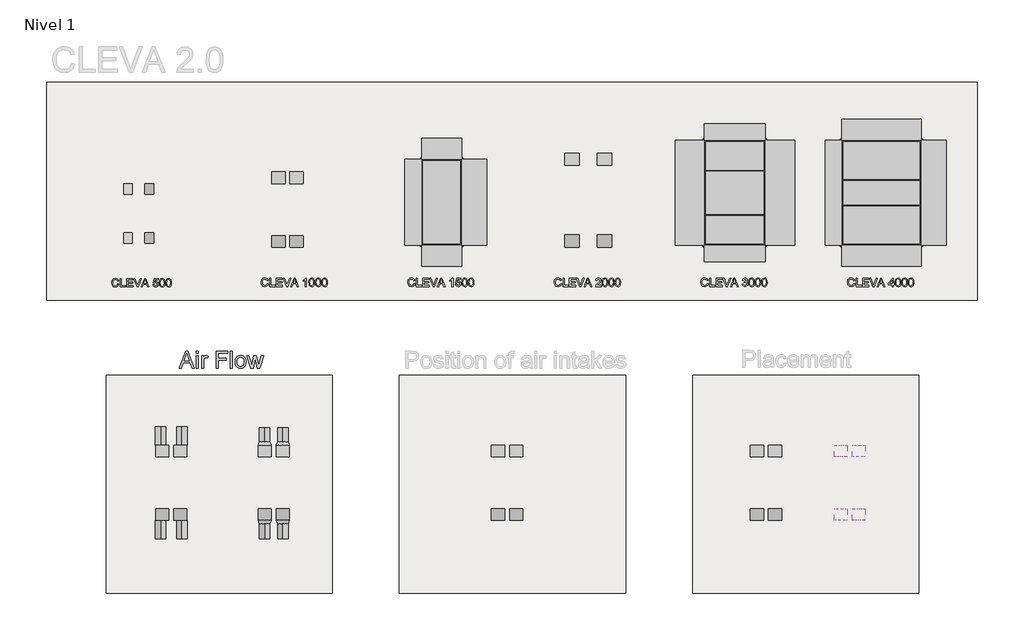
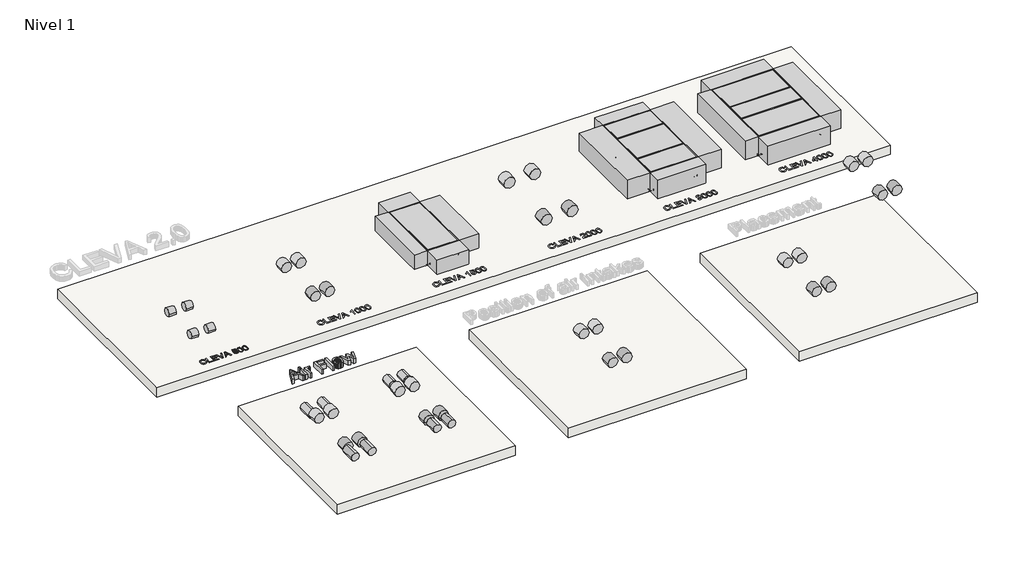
# One storey, part 1 of 4: 49 proxies, 8 duct segments, 4 duct fittings, 4 slabs.
"""IFC4 building model written with IfcOpenShell, lengths in millimetres."""

from ifc_helpers import new_model, si_unit, point, frame, frame_2d, origin, origin_with_axes, place, context, project, spatial, polyline, circle_curve, trimmed, segment, composite_curve, outline, extrude, transform, mapped, element, save
from components import mechanical_equipment_862caaf2, mechanical_equipment_ccacce41, mechanical_equipment_cc5bcc0d, mechanical_equipment_c04ba774, mechanical_equipment_7009f9f1, mechanical_equipment_b7612c93, mechanical_equipment_8fb162d6, mechanical_equipment_6676021b, generic_38d393d2, generic_a02d87c0, generic_b7d0f0c7, generic_0010b177, generic_a8033e50, generic_71049ee5, generic_86a936d3, generic_914f4e6b, generic_8c205b38, generic_0c9c9dc3, generic_617cf1fd, generic_b990c55b, duct_fitting_45_grados_958f1904

model = new_model("IFC4")

# Units and contexts
model_context = context("Model", 3, world=origin())
ifc_project = project(units=[si_unit("LENGTHUNIT", "METRE", prefix="MILLI")], contexts=[model_context])

# Site, building, storey
site = spatial("IfcSite", under=ifc_project)
building = spatial("IfcBuilding", under=site)
storey = spatial("IfcBuildingStorey", under=building, Name="Nivel 1", Elevation=0.0)

# Proxies
placement = place(None, origin())
mechanical_equipment_shape = mechanical_equipment_862caaf2(model_context)
mechanical_equipment_2_shape = mechanical_equipment_ccacce41(model_context)
mechanical_equipment_3_shape = mechanical_equipment_cc5bcc0d(model_context)
element("IfcBuildingElementProxy", 1, Name="EMC_VEN_CLEVA 2.0_Right_V2 : CLEVA 3000 2.0 Right", ObjectType="EMC_VEN_CLEVA 2.0_Right_V2 : CLEVA 3000 2.0 Right", at=placement, inside=storey, context=model_context, shape_type="MappedRepresentation", body=[
    mapped(mechanical_equipment_shape, transform((5015.2317784, 8856.8192571, 0.0), x_axis=(0.0, 1.0, 0.0), y_axis=(-1.0, 0.0, 0.0), z_axis=(0.0, 0.0, 1.0))),
    mapped(mechanical_equipment_2_shape, transform((5015.2317784, 8856.8192571, 0.0), x_axis=(0.0, 1.0, 0.0), y_axis=(-1.0, 0.0, 0.0), z_axis=(0.0, 0.0, 1.0))),
    mapped(mechanical_equipment_3_shape, transform((5015.2317784, 8856.8192571, 0.0), x_axis=(0.0, 1.0, 0.0), y_axis=(-1.0, 0.0, 0.0), z_axis=(0.0, 0.0, 1.0))),
])
mechanical_equipment_4_shape = mechanical_equipment_c04ba774(model_context)
mechanical_equipment_5_shape = mechanical_equipment_7009f9f1(model_context)
mechanical_equipment_6_shape = mechanical_equipment_b7612c93(model_context)
element("IfcBuildingElementProxy", 2, Name="EMC_VEN_CLEVA 2.0_Right_V2 : CLEVA 4000 2.0 Right", ObjectType="EMC_VEN_CLEVA 2.0_Right_V2 : CLEVA 4000 2.0 Right", at=placement, inside=storey, context=model_context, shape_type="MappedRepresentation", body=[
    mapped(mechanical_equipment_4_shape, transform((8515.2317784, 8856.8192571, 0.0), x_axis=(0.0, 1.0, 0.0), y_axis=(-1.0, 0.0, 0.0), z_axis=(0.0, 0.0, 1.0))),
    mapped(mechanical_equipment_5_shape, transform((8515.2317784, 8856.8192571, 0.0), x_axis=(0.0, 1.0, 0.0), y_axis=(-1.0, 0.0, 0.0), z_axis=(0.0, 0.0, 1.0))),
    mapped(mechanical_equipment_6_shape, transform((8515.2317784, 8856.8192571, 0.0), x_axis=(0.0, 1.0, 0.0), y_axis=(-1.0, 0.0, 0.0), z_axis=(0.0, 0.0, 1.0))),
])
mechanical_equipment_7_shape = mechanical_equipment_8fb162d6(model_context)
mechanical_equipment_8_shape = mechanical_equipment_6676021b(model_context)
element("IfcBuildingElementProxy", 3, Name="EMC_VEN_CLEVA 2.0_Right_V2 : CLEVA 1500 2.0 Right", ObjectType="EMC_VEN_CLEVA 2.0_Right_V2 : CLEVA 1500 2.0 Right", at=placement, inside=storey, context=model_context, shape_type="MappedRepresentation", body=[
    mapped(mechanical_equipment_7_shape, transform((-1984.7682216, 8631.8192571, 0.0), x_axis=(0.0, 1.0, 0.0), y_axis=(-1.0, 0.0, 0.0), z_axis=(0.0, 0.0, 1.0))),
    mapped(mechanical_equipment_8_shape, transform((-1984.7682216, 8631.8192571, 0.0), x_axis=(0.0, 1.0, 0.0), y_axis=(-1.0, 0.0, 0.0), z_axis=(0.0, 0.0, 1.0))),
])
element("IfcBuildingElementProxy", 4, Name="200mm Arial", ObjectType="200mm Arial", at=placement, inside=storey, context=model_context, shape_type="SweptSolid", body=[
    extrude(outline(polyline([(-9714.4634923, 6680.5116945), (-9689.3494147, 6674.0369713), (-9700.9376976, 6644.7719586), (-9719.1233309, 6623.3918833), (-9743.0111351, 6610.3136784), (-9771.7059307, 6605.9542768), (-9800.8360534, 6609.252952), (-9823.9696995, 6619.1489777), (-9841.7016117, 6635.2989972), (-9854.6265324, 6657.3596542), (-9862.5176012, 6683.2953349), (-9865.1479575, 6711.0704255), (-9862.1742447, 6740.3660951), (-9853.2531063, 6765.6641136), (-9838.8505262, 6786.1612721), (-9819.4324882, 6801.0543615), (-9796.4030753, 6810.1226527), (-9771.1663705, 6813.1454164), (-9743.6304031, 6809.2336046), (-9720.864639, 6797.4981689), (-9703.5803166, 6778.6626108), (-9692.4886744, 6753.4504314), (-9717.602752, 6747.4662176), (-9726.3092925, 6765.7806096), (-9738.2041437, 6778.3437797), (-9753.4344583, 6785.6094491), (-9772.1473891, 6788.0313389), (-9793.7175368, 6785.3458003), (-9811.4371862, 6777.2891846), (-9824.8832731, 6764.7076204), (-9833.6327333, 6748.4472362), (-9838.4335933, 6730.0653992), (-9840.03388, 6711.1194765), (-9838.1392877, 6687.9183853), (-9832.4555109, 6667.8565538), (-9822.7679517, 6651.7004029), (-9808.8620122, 6640.2163532), (-9792.1908265, 6633.355354), (-9774.2075283, 6631.0683543), (-9753.2443859, 6634.1830885), (-9735.7761225, 6643.5272912), (-9722.587553, 6659.0028605), (-9714.4634923, 6680.5116945)])), origin_with_axes(), (0.0, 0.0, 1.0), 10.0),
    extrude(outline(polyline([(-9654.8175581, 6609.0935365), (-9654.8175581, 6810.0061568), (-9629.7034806, 6810.0061568), (-9629.7034806, 6634.207614), (-9529.2471704, 6634.207614), (-9529.2471704, 6609.0935365), (-9654.8175581, 6609.0935365)])), origin_with_axes(), (0.0, 0.0, 1.0), 10.0),
    extrude(outline(polyline([(-9500.9938332, 6609.0935365), (-9500.9938332, 6810.0061568), (-9356.5878874, 6810.0061568), (-9356.5878874, 6784.8920792), (-9475.8797557, 6784.8920792), (-9475.8797557, 6725.2461451), (-9362.8664068, 6725.2461451), (-9362.8664068, 6700.1320675), (-9475.8797557, 6700.1320675), (-9475.8797557, 6634.207614), (-9353.4486277, 6634.207614), (-9353.4486277, 6609.0935365), (-9500.9938332, 6609.0935365)])), origin_with_axes(), (0.0, 0.0, 1.0), 10.0),
    extrude(outline(polyline([(-9153.9584844, 6609.0935365), (-9073.7602095, 6810.0061568), (-9052.3740028, 6810.0061568), (-8972.1757279, 6609.0935365), (-8998.7122825, 6609.0935365), (-9021.7171699, 6671.8787303), (-9104.4660933, 6671.8787303), (-9127.4219298, 6609.0935365), (-9153.9584844, 6609.0935365)]), holes=[polyline([(-9095.244518, 6696.9928078), (-9030.8896943, 6696.9928078), (-9048.9894885, 6746.3870971), (-9063.0671062, 6784.8920792), (-9075.575094, 6750.7035791), (-9095.244518, 6696.9928078)])]), origin_with_axes(), (0.0, 0.0, 1.0), 10.0),
    extrude(outline(polyline([(-9256.4258828, 6609.0935365), (-9336.3789031, 6810.0061568), (-9309.498992, 6810.0061568), (-9255.9844244, 6665.2568544), (-9245.1441683, 6632.6379841), (-9234.451065, 6665.2568544), (-9180.7893446, 6810.0061568), (-9153.9094335, 6810.0061568), (-9230.4779394, 6609.0935365), (-9256.4258828, 6609.0935365)])), origin_with_axes(), (0.0, 0.0, 1.0), 10.0),
    extrude(outline(polyline([(-8876.2811545, 6662.4609512), (-8851.1670769, 6665.6002109), (-8846.5562893, 6650.5231805), (-8838.5119363, 6639.7258439), (-8827.0708062, 6633.2327267), (-8812.2696873, 6631.0683543), (-8794.267995, 6634.0788553), (-8780.7789885, 6643.1103583), (-8772.3544908, 6657.1205309), (-8769.5463249, 6675.0670409), (-8772.1766812, 6691.9650872), (-8780.06775, 6704.890008), (-8793.280845, 6713.0937765), (-8811.8772798, 6715.828366), (-8833.9256741, 6711.462833), (-8848.0278172, 6700.1320675), (-8873.1418948, 6703.2713272), (-8851.1670769, 6806.8668971), (-8753.8500265, 6806.8668971), (-8753.8500265, 6781.7528195), (-8830.8599908, 6781.7528195), (-8841.6021451, 6726.4233674), (-8823.6617664, 6737.3126745), (-8804.8629965, 6740.9424435), (-8781.3982565, 6736.4420205), (-8761.9189049, 6722.9407512), (-8748.8039118, 6702.363885), (-8744.4322474, 6676.6366708), (-8748.3685847, 6651.5225932), (-8760.1775968, 6630.0382847), (-8770.6131827, 6619.5015312), (-8782.7900768, 6611.9752787), (-8796.7082789, 6607.4595273), (-8812.3677892, 6605.9542768), (-8837.034277, 6609.8231691), (-8856.6853069, 6621.429846), (-8870.1559193, 6639.425407), (-8876.2811545, 6662.4609512)])), origin_with_axes(), (0.0, 0.0, 1.0), 10.0),
    extrude(outline(polyline([(-8722.4574296, 6707.9311658), (-8720.6118882, 6740.0901836), (-8715.0752642, 6765.73769), (-8705.9027398, 6785.2660926), (-8693.1494973, 6799.0677988), (-8676.7235662, 6807.2715673), (-8656.532976, 6810.0061568), (-8641.0574068, 6808.387476), (-8627.2005183, 6803.5314336), (-8615.6122354, 6795.6281021), (-8606.9424831, 6784.8675537), (-8595.1702592, 6755.1426885), (-8590.6085225, 6707.9311658), (-8592.4356697, 6675.9560891), (-8597.9171115, 6650.3698963), (-8607.0344536, 6630.8230996), (-8619.769302, 6616.9662112), (-8636.2320213, 6608.7072604), (-8656.532976, 6605.9542768), (-8682.6280722, 6610.7367427), (-8702.444649, 6625.0841405), (-8711.2002405, 6640.2132876), (-8717.4542344, 6659.0641741), (-8722.4574296, 6707.9311658)]), holes=[polyline([(-8697.343352, 6707.9802168), (-8694.4002961, 6668.4758218), (-8685.5711282, 6645.6119558), (-8672.4254782, 6634.7042547), (-8656.532976, 6631.0683543), (-8640.6404738, 6634.7165174), (-8627.4948239, 6645.6610068), (-8618.665656, 6668.5371355), (-8615.7226, 6707.9802168), (-8618.5675541, 6746.5955635), (-8627.1024164, 6769.6372391), (-8640.2235409, 6781.0783692), (-8656.8272816, 6784.8920792), (-8672.5481055, 6781.5320903), (-8685.1787207, 6771.4521237), (-8694.3021942, 6746.9757082), (-8697.343352, 6707.9802168)])]), origin_with_axes(), (0.0, 0.0, 1.0), 10.0),
    extrude(outline(polyline([(-8568.6337046, 6707.9311658), (-8566.7881633, 6740.0901836), (-8561.2515393, 6765.73769), (-8552.0790149, 6785.2660926), (-8539.3257724, 6799.0677988), (-8522.8998413, 6807.2715673), (-8502.7092511, 6810.0061568), (-8487.2336818, 6808.387476), (-8473.3767934, 6803.5314336), (-8461.7885105, 6795.6281021), (-8453.1187582, 6784.8675537), (-8441.3465343, 6755.1426885), (-8436.7847976, 6707.9311658), (-8438.6119448, 6675.9560891), (-8444.0933865, 6650.3698963), (-8453.2107287, 6630.8230996), (-8465.9455771, 6616.9662112), (-8482.4082963, 6608.7072604), (-8502.7092511, 6605.9542768), (-8528.8043473, 6610.7367427), (-8548.6209241, 6625.0841405), (-8557.3765156, 6640.2132876), (-8563.6305095, 6659.0641741), (-8568.6337046, 6707.9311658)]), holes=[polyline([(-8543.5196271, 6707.9802168), (-8540.5765711, 6668.4758218), (-8531.7474033, 6645.6119558), (-8518.6017533, 6634.7042547), (-8502.7092511, 6631.0683543), (-8486.8167489, 6634.7165174), (-8473.6710989, 6645.6610068), (-8464.8419311, 6668.5371355), (-8461.8988751, 6707.9802168), (-8464.7438292, 6746.5955635), (-8473.2786915, 6769.6372391), (-8486.399816, 6781.0783692), (-8503.0035567, 6784.8920792), (-8518.7243806, 6781.5320903), (-8531.3549958, 6771.4521237), (-8540.4784693, 6746.9757082), (-8543.5196271, 6707.9802168)])]), origin_with_axes(), (0.0, 0.0, 1.0), 10.0),
])
element("IfcBuildingElementProxy", 5, Name="400mm Arial", ObjectType="400mm Arial", at=placement, inside=storey, context=model_context, shape_type="SweptSolid", body=[
    extrude(outline(polyline([(-8251.4303088, 4671.5258192), (-8091.0337589, 5073.3510598), (-8048.2613456, 5073.3510598), (-7887.8647957, 4671.5258192), (-7940.9379049, 4671.5258192), (-7986.9476798, 4797.0962069), (-8152.4455267, 4797.0962069), (-8198.3571997, 4671.5258192), (-8251.4303088, 4671.5258192)]), holes=[polyline([(-8134.002376, 4847.324362), (-8005.2927286, 4847.324362), (-8041.4923169, 4946.1129404), (-8069.6475523, 5023.1229048), (-8094.663528, 4954.7459046), (-8134.002376, 4847.324362)])]), origin_with_axes(), (0.0, 0.0, 1.0), 150.0),
    extrude(outline(polyline([(-7840.4815948, 5023.1229048), (-7840.4815948, 5073.3510598), (-7790.2534397, 5073.3510598), (-7790.2534397, 5023.1229048), (-7840.4815948, 5023.1229048)])), origin_with_axes(), (0.0, 0.0, 1.0), 150.0),
    extrude(outline(polyline([(-7840.4815948, 4671.5258192), (-7840.4815948, 4966.6162303), (-7790.2534397, 4966.6162303), (-7790.2534397, 4671.5258192), (-7840.4815948, 4671.5258192)])), origin_with_axes(), (0.0, 0.0, 1.0), 150.0),
    extrude(outline(polyline([(-7714.9112071, 4671.5258192), (-7714.9112071, 4966.6162303), (-7670.9615714, 4966.6162303), (-7670.9615714, 4922.9609002), (-7654.7257127, 4948.2711815), (-7639.7651782, 4963.182665), (-7624.7555928, 4970.4667285), (-7608.3725813, 4972.8947497), (-7583.3566056, 4969.019726), (-7557.9482225, 4957.394655), (-7574.7236414, 4912.3658988), (-7592.3819772, 4920.0914207), (-7610.040313, 4922.6665946), (-7625.0376357, 4920.1895225), (-7638.440803, 4912.7583062), (-7649.2687964, 4900.9370314), (-7656.5405972, 4885.2897839), (-7662.6474383, 4857.2326504), (-7664.683052, 4826.6248684), (-7664.683052, 4671.5258192), (-7714.9112071, 4671.5258192)])), origin_with_axes(), (0.0, 0.0, 1.0), 150.0),
    extrude(outline(polyline([(-7363.3141215, 4671.5258192), (-7363.3141215, 5073.3510598), (-7093.337788, 5073.3510598), (-7093.337788, 5023.1229048), (-7313.0859665, 5023.1229048), (-7313.0859665, 4903.8310365), (-7124.7303849, 4903.8310365), (-7124.7303849, 4853.6028814), (-7313.0859665, 4853.6028814), (-7313.0859665, 4671.5258192), (-7363.3141215, 4671.5258192)])), origin_with_axes(), (0.0, 0.0, 1.0), 150.0),
    extrude(outline(polyline([(-7030.5525942, 4671.5258192), (-7030.5525942, 5073.3510598), (-6980.3244391, 5073.3510598), (-6980.3244391, 4671.5258192), (-7030.5525942, 4671.5258192)])), origin_with_axes(), (0.0, 0.0, 1.0), 150.0),
    extrude(outline(polyline([(-6917.5392453, 4819.0710248), (-6914.8230499, 4857.2878327), (-6906.6744637, 4890.2194026), (-6893.0934867, 4917.8657346), (-6874.0801189, 4940.2268285), (-6854.9379924, 4954.519044), (-6833.8093032, 4964.7277694), (-6810.6940511, 4970.8530046), (-6785.5922363, 4972.8947497), (-6757.881525, 4970.4084805), (-6732.8256955, 4962.9496731), (-6710.4247477, 4950.5183273), (-6690.6786816, 4933.1144433), (-6674.5623845, 4911.3266321), (-6663.0507437, 4885.743505), (-6656.1437593, 4856.365062), (-6653.8414311, 4823.1913031), (-6657.9126585, 4772.4481133), (-6670.1263408, 4733.8205038), (-6690.1268586, 4704.8927162), (-6717.5585927, 4683.2489922), (-6750.1406747, 4669.7477229), (-6785.5922363, 4665.2472999), (-6813.7076178, 4667.724372), (-6838.9964393, 4675.1555883), (-6861.4587008, 4687.5409488), (-6881.0944023, 4704.8804535), (-6897.0390211, 4726.8797968), (-6908.4280345, 4753.2446731), (-6915.2614426, 4783.9750824), (-6917.5392453, 4819.0710248)]), holes=[polyline([(-6867.3110902, 4819.1691266), (-6865.8579563, 4794.8061415), (-6861.4985547, 4773.7111748), (-6854.2328853, 4755.8842264), (-6844.0609481, 4741.3252965), (-6831.6878503, 4730.0159908), (-6817.8186991, 4721.9379153), (-6802.4534944, 4717.09107), (-6785.5922363, 4715.4754549), (-6768.8168173, 4717.1002671), (-6753.5129263, 4721.9747035), (-6739.6805633, 4730.0987642), (-6727.3197283, 4741.4724493), (-6717.1477911, 4756.1754663), (-6709.8821217, 4774.2875232), (-6705.5227201, 4795.8086199), (-6704.0695862, 4820.7387565), (-6705.5319171, 4844.3291894), (-6709.9189099, 4864.8723332), (-6717.2305646, 4882.3681877), (-6727.4668811, 4896.8167531), (-6739.8737014, 4908.1260588), (-6753.6968673, 4916.2041342), (-6768.936379, 4921.0509795), (-6785.5922363, 4922.6665946), (-6802.4534944, 4921.0571109), (-6817.8186991, 4916.2286597), (-6831.6878503, 4908.1812411), (-6844.0609481, 4896.914855), (-6854.2328853, 4882.3988446), (-6861.4985547, 4864.602553), (-6865.8579563, 4843.5259804), (-6867.3110902, 4819.1691266)])]), origin_with_axes(), (0.0, 0.0, 1.0), 150.0),
    extrude(outline(polyline([(-6548.3819258, 4671.5258192), (-6638.1451327, 4966.6162303), (-6585.9549403, 4966.6162303), (-6535.0400721, 4794.4474566), (-6519.834283, 4732.937587), (-6507.3753461, 4792.1911137), (-6466.8592757, 4966.6162303), (-6407.0171378, 4966.6162303), (-6366.6972711, 4792.681623), (-6355.6117604, 4739.0199026), (-6339.7192582, 4795.624679), (-6288.7062882, 4966.6162303), (-6236.3198921, 4966.6162303), (-6326.7698119, 4671.5258192), (-6387.4948666, 4671.5258192), (-6426.0488997, 4844.5775098), (-6437.2325124, 4898.5335357), (-6486.9701581, 4671.5258192), (-6548.3819258, 4671.5258192)])), origin_with_axes(), (0.0, 0.0, 1.0), 150.0),
])
generic_shape = generic_38d393d2(model_context)
element("IfcBuildingElementProxy", 6, Name="GM_Conduct : Generic", ObjectType="GM_Conduct : Generic", at=placement, inside=storey, context=model_context, shape_type="MappedRepresentation", body=[
    mapped(generic_shape, transform((-2218.2682216, 9410.3192571, 106.75), x_axis=(0.0, 1.0, 0.0), y_axis=(-1.0, 0.0, 0.0), z_axis=(0.0, 0.0, 1.0))),
])
element("IfcBuildingElementProxy", 7, Name="GM_Conduct : Generic", ObjectType="GM_Conduct : Generic", at=placement, inside=storey, context=model_context, shape_type="MappedRepresentation", body=[
    mapped(generic_shape, transform((-1751.2682216, 7853.3192571, 106.75), x_axis=(0.0, -1.0, 0.0), y_axis=(1.0, 0.0, 0.0), z_axis=(0.0, 0.0, 1.0))),
])
generic_2_shape = generic_a02d87c0(model_context)
element("IfcBuildingElementProxy", 8, Name="GM_Conduct : Generic", ObjectType="GM_Conduct : Generic", at=placement, inside=storey, context=model_context, shape_type="MappedRepresentation", body=[
    mapped(generic_2_shape, transform((-2218.2682216, 7853.3192571, 106.75), x_axis=(0.0, -1.0, 0.0), y_axis=(1.0, 0.0, 0.0), z_axis=(0.0, 0.0, 1.0))),
])
element("IfcBuildingElementProxy", 9, Name="GM_Conduct : Generic", ObjectType="GM_Conduct : Generic", at=placement, inside=storey, context=model_context, shape_type="MappedRepresentation", body=[
    mapped(generic_2_shape, transform((-1751.2682216, 9410.3192571, 106.75), x_axis=(0.0, 1.0, 0.0), y_axis=(-1.0, 0.0, 0.0), z_axis=(0.0, 0.0, 1.0))),
])
generic_3_shape = generic_b7d0f0c7(model_context)
element("IfcBuildingElementProxy", 10, Name="GM_Conduct : Generic", ObjectType="GM_Conduct : Generic", at=placement, inside=storey, context=model_context, shape_type="MappedRepresentation", body=[
    mapped(generic_3_shape, transform((7844.2317784, 9832.8192571, 162.5), x_axis=(0.0, 1.0, 0.0), y_axis=(-1.0, 0.0, 0.0), z_axis=(0.0, 0.0, 1.0))),
])
element("IfcBuildingElementProxy", 11, Name="GM_Conduct : Generic", ObjectType="GM_Conduct : Generic", at=placement, inside=storey, context=model_context, shape_type="MappedRepresentation", body=[
    mapped(generic_3_shape, transform((9186.2317784, 7880.8192571, 162.5), x_axis=(0.0, -1.0, 0.0), y_axis=(1.0, 0.0, 0.0), z_axis=(0.0, 0.0, 1.0))),
])
generic_4_shape = generic_0010b177(model_context)
element("IfcBuildingElementProxy", 12, Name="GM_Conduct : Generic", ObjectType="GM_Conduct : Generic", at=placement, inside=storey, context=model_context, shape_type="MappedRepresentation", body=[
    mapped(generic_4_shape, transform((7844.2317784, 7880.8192571, 162.5), x_axis=(0.0, -1.0, 0.0), y_axis=(1.0, 0.0, 0.0), z_axis=(0.0, 0.0, 1.0))),
])
element("IfcBuildingElementProxy", 13, Name="GM_Conduct : Generic", ObjectType="GM_Conduct : Generic", at=placement, inside=storey, context=model_context, shape_type="MappedRepresentation", body=[
    mapped(generic_4_shape, transform((9186.2317784, 9832.8192571, 162.5), x_axis=(0.0, 1.0, 0.0), y_axis=(-1.0, 0.0, 0.0), z_axis=(0.0, 0.0, 1.0))),
])
generic_5_shape = generic_a8033e50(model_context)
element("IfcBuildingElementProxy", 14, Name="GM_Conduct : Generic", ObjectType="GM_Conduct : Generic", at=placement, inside=storey, context=model_context, shape_type="MappedRepresentation", body=[
    mapped(generic_5_shape, transform((-9367.7760367, 8941.8192571, 87.5), x_axis=(0.0, 1.0, 0.0), y_axis=(-1.0, 0.0, 0.0), z_axis=(0.0, 0.0, 1.0))),
])
element("IfcBuildingElementProxy", 15, Name="GM_Conduct : Generic", ObjectType="GM_Conduct : Generic", at=placement, inside=storey, context=model_context, shape_type="MappedRepresentation", body=[
    mapped(generic_5_shape, transform((-9067.7760367, 7771.8192571, 87.5), x_axis=(0.0, -1.0, 0.0), y_axis=(1.0, 0.0, 0.0), z_axis=(0.0, 0.0, 1.0))),
])
generic_6_shape = generic_71049ee5(model_context)
element("IfcBuildingElementProxy", 16, Name="GM_Conduct : Generic", ObjectType="GM_Conduct : Generic", at=placement, inside=storey, context=model_context, shape_type="MappedRepresentation", body=[
    mapped(generic_6_shape, transform((-9367.7760367, 7771.8192571, 87.5), x_axis=(0.0, -1.0, 0.0), y_axis=(1.0, 0.0, 0.0), z_axis=(0.0, 0.0, 1.0))),
])
element("IfcBuildingElementProxy", 17, Name="GM_Conduct : Generic", ObjectType="GM_Conduct : Generic", at=placement, inside=storey, context=model_context, shape_type="MappedRepresentation", body=[
    mapped(generic_6_shape, transform((-9067.7760367, 8941.8192571, 87.5), x_axis=(0.0, 1.0, 0.0), y_axis=(-1.0, 0.0, 0.0), z_axis=(0.0, 0.0, 1.0))),
])
generic_7_shape = generic_86a936d3(model_context)
element("IfcBuildingElementProxy", 18, Name="GM_Conduct : Generic", ObjectType="GM_Conduct : Generic", at=placement, inside=storey, context=model_context, shape_type="MappedRepresentation", body=[
    mapped(generic_7_shape, transform((1125.7317784, 7852.3192571, 107.25), x_axis=(0.0, -1.0, 0.0), y_axis=(1.0, 0.0, 0.0), z_axis=(0.0, 0.0, 1.0))),
])
element("IfcBuildingElementProxy", 19, Name="GM_Conduct : Generic", ObjectType="GM_Conduct : Generic", at=placement, inside=storey, context=model_context, shape_type="MappedRepresentation", body=[
    mapped(generic_7_shape, transform((1904.7317784, 9511.3192571, 107.25), x_axis=(0.0, 1.0, 0.0), y_axis=(-1.0, 0.0, 0.0), z_axis=(0.0, 0.0, 1.0))),
])
generic_8_shape = generic_914f4e6b(model_context)
element("IfcBuildingElementProxy", 20, Name="GM_Conduct : Generic", ObjectType="GM_Conduct : Generic", at=placement, inside=storey, context=model_context, shape_type="MappedRepresentation", body=[
    mapped(generic_8_shape, transform((4579.2317784, 7895.8192571, 155.0), x_axis=(0.0, -1.0, 0.0), y_axis=(1.0, 0.0, 0.0), z_axis=(0.0, 0.0, 1.0))),
])
element("IfcBuildingElementProxy", 21, Name="GM_Conduct : Generic", ObjectType="GM_Conduct : Generic", at=placement, inside=storey, context=model_context, shape_type="MappedRepresentation", body=[
    mapped(generic_8_shape, transform((5451.2317784, 9817.8192571, 155.0), x_axis=(0.0, 1.0, 0.0), y_axis=(-1.0, 0.0, 0.0), z_axis=(0.0, 0.0, 1.0))),
])
generic_9_shape = generic_8c205b38(model_context)
element("IfcBuildingElementProxy", 22, Name="GM_Conduct : Generic", ObjectType="GM_Conduct : Generic", at=placement, inside=storey, context=model_context, shape_type="MappedRepresentation", body=[
    mapped(generic_9_shape, transform((1125.7317784, 9511.3192571, 107.25), x_axis=(0.0, 1.0, 0.0), y_axis=(-1.0, 0.0, 0.0), z_axis=(0.0, 0.0, 1.0))),
])
element("IfcBuildingElementProxy", 23, Name="GM_Conduct : Generic", ObjectType="GM_Conduct : Generic", at=placement, inside=storey, context=model_context, shape_type="MappedRepresentation", body=[
    mapped(generic_9_shape, transform((1904.7317784, 7852.3192571, 107.25), x_axis=(0.0, -1.0, 0.0), y_axis=(1.0, 0.0, 0.0), z_axis=(0.0, 0.0, 1.0))),
])
generic_10_shape = generic_0c9c9dc3(model_context)
element("IfcBuildingElementProxy", 24, Name="GM_Conduct : Generic", ObjectType="GM_Conduct : Generic", at=placement, inside=storey, context=model_context, shape_type="MappedRepresentation", body=[
    mapped(generic_10_shape, transform((4579.2317784, 9817.8192571, 155.0), x_axis=(0.0, 1.0, 0.0), y_axis=(-1.0, 0.0, 0.0), z_axis=(0.0, 0.0, 1.0))),
])
element("IfcBuildingElementProxy", 25, Name="GM_Conduct : Generic", ObjectType="GM_Conduct : Generic", at=placement, inside=storey, context=model_context, shape_type="MappedRepresentation", body=[
    mapped(generic_10_shape, transform((5451.2317784, 7895.8192571, 155.0), x_axis=(0.0, -1.0, 0.0), y_axis=(1.0, 0.0, 0.0), z_axis=(0.0, 0.0, 1.0))),
])
generic_11_shape = generic_617cf1fd(model_context)
element("IfcBuildingElementProxy", 26, Name="GM_Conduct : Generic", ObjectType="GM_Conduct : Generic", at=placement, inside=storey, context=model_context, shape_type="MappedRepresentation", body=[
    mapped(generic_11_shape, transform((-5880.7682216, 9077.8192571, 115.5), x_axis=(0.0, 1.0, 0.0), y_axis=(-1.0, 0.0, 0.0), z_axis=(0.0, 0.0, 1.0))),
])
element("IfcBuildingElementProxy", 27, Name="GM_Conduct : Generic", ObjectType="GM_Conduct : Generic", at=placement, inside=storey, context=model_context, shape_type="MappedRepresentation", body=[
    mapped(generic_11_shape, transform((-5448.7682216, 7835.8192571, 115.5), x_axis=(0.0, -1.0, 0.0), y_axis=(1.0, 0.0, 0.0), z_axis=(0.0, 0.0, 1.0))),
])
element("IfcBuildingElementProxy", 28, Name="GM_Conduct : Generic", ObjectType="GM_Conduct : Generic", at=placement, inside=storey, context=model_context, shape_type="MappedRepresentation", body=[
    mapped(generic_11_shape, transform((-637.9167371, 2552.4031904, 115.5), x_axis=(0.0, 1.0, 0.0), y_axis=(-1.0, 0.0, 0.0), z_axis=(0.0, 0.0, 1.0))),
])
element("IfcBuildingElementProxy", 29, Name="GM_Conduct : Generic", ObjectType="GM_Conduct : Generic", at=placement, inside=storey, context=model_context, shape_type="MappedRepresentation", body=[
    mapped(generic_11_shape, transform((-205.9167371, 1310.4031904, 115.5), x_axis=(0.0, -1.0, 0.0), y_axis=(1.0, 0.0, 0.0), z_axis=(0.0, 0.0, 1.0))),
])
element("IfcBuildingElementProxy", 30, Name="GM_Conduct : Generic", ObjectType="GM_Conduct : Generic", at=placement, inside=storey, context=model_context, shape_type="MappedRepresentation", body=[
    mapped(generic_11_shape, transform((5542.0832629, 2552.4031904, 225.5), x_axis=(0.0, 1.0, 0.0), y_axis=(-1.0, 0.0, 0.0), z_axis=(0.0, 0.0, 1.0))),
])
element("IfcBuildingElementProxy", 31, Name="GM_Conduct : Generic", ObjectType="GM_Conduct : Generic", at=placement, inside=storey, context=model_context, shape_type="MappedRepresentation", body=[
    mapped(generic_11_shape, transform((5974.0832629, 1310.4031904, 225.5), x_axis=(0.0, -1.0, 0.0), y_axis=(1.0, 0.0, 0.0), z_axis=(0.0, 0.0, 1.0))),
])
element("IfcBuildingElementProxy", 32, Name="GM_Conduct : Generic", ObjectType="GM_Conduct : Generic", at=placement, inside=storey, context=model_context, shape_type="MappedRepresentation", body=[
    mapped(generic_11_shape, transform((7542.0832629, 2552.4031904, 2615.5), x_axis=(0.0, 1.0, 0.0), y_axis=(-1.0, 0.0, 0.0), z_axis=(0.0, 0.0, 1.0))),
])
element("IfcBuildingElementProxy", 33, Name="GM_Conduct : Generic", ObjectType="GM_Conduct : Generic", at=placement, inside=storey, context=model_context, shape_type="MappedRepresentation", body=[
    mapped(generic_11_shape, transform((7974.0832629, 1310.4031904, 2615.5), x_axis=(0.0, -1.0, 0.0), y_axis=(1.0, 0.0, 0.0), z_axis=(0.0, 0.0, 1.0))),
])
element("IfcBuildingElementProxy", 34, Name="GM_Conduct : Generic", ObjectType="GM_Conduct : Generic", at=placement, inside=storey, context=model_context, shape_type="MappedRepresentation", body=[
    mapped(generic_11_shape, transform((-8657.9167371, 2552.4031904, 215.5), x_axis=(0.0, 1.0, 0.0), y_axis=(-1.0, 0.0, 0.0), z_axis=(0.0, 0.0, 1.0))),
])
element("IfcBuildingElementProxy", 35, Name="GM_Conduct : Generic", ObjectType="GM_Conduct : Generic", at=placement, inside=storey, context=model_context, shape_type="MappedRepresentation", body=[
    mapped(generic_11_shape, transform((-8225.9167371, 1310.4031904, 215.5), x_axis=(0.0, -1.0, 0.0), y_axis=(1.0, 0.0, 0.0), z_axis=(0.0, 0.0, 1.0))),
])
element("IfcBuildingElementProxy", 36, Name="GM_Conduct : Generic", ObjectType="GM_Conduct : Generic", at=placement, inside=storey, context=model_context, shape_type="MappedRepresentation", body=[
    mapped(generic_11_shape, transform((-6208.7760367, 2552.4031904, 215.5), x_axis=(0.0, 1.0, 0.0), y_axis=(-1.0, 0.0, 0.0), z_axis=(0.0, 0.0, 1.0))),
])
element("IfcBuildingElementProxy", 37, Name="GM_Conduct : Generic", ObjectType="GM_Conduct : Generic", at=placement, inside=storey, context=model_context, shape_type="MappedRepresentation", body=[
    mapped(generic_11_shape, transform((-5776.7760367, 1310.4031904, 215.5), x_axis=(0.0, -1.0, 0.0), y_axis=(1.0, 0.0, 0.0), z_axis=(0.0, 0.0, 1.0))),
])
generic_12_shape = generic_b990c55b(model_context)
element("IfcBuildingElementProxy", 38, Name="GM_Conduct : Generic", ObjectType="GM_Conduct : Generic", at=placement, inside=storey, context=model_context, shape_type="MappedRepresentation", body=[
    mapped(generic_12_shape, transform((-5880.7682216, 7835.8192571, 115.5), x_axis=(0.0, -1.0, 0.0), y_axis=(1.0, 0.0, 0.0), z_axis=(0.0, 0.0, 1.0))),
])
element("IfcBuildingElementProxy", 39, Name="GM_Conduct : Generic", ObjectType="GM_Conduct : Generic", at=placement, inside=storey, context=model_context, shape_type="MappedRepresentation", body=[
    mapped(generic_12_shape, transform((-5448.7682216, 9077.8192571, 115.5), x_axis=(0.0, 1.0, 0.0), y_axis=(-1.0, 0.0, 0.0), z_axis=(0.0, 0.0, 1.0))),
])
element("IfcBuildingElementProxy", 40, Name="GM_Conduct : Generic", ObjectType="GM_Conduct : Generic", at=placement, inside=storey, context=model_context, shape_type="MappedRepresentation", body=[
    mapped(generic_12_shape, transform((-637.9167371, 1310.4031904, 115.5), x_axis=(0.0, -1.0, 0.0), y_axis=(1.0, 0.0, 0.0), z_axis=(0.0, 0.0, 1.0))),
])
element("IfcBuildingElementProxy", 41, Name="GM_Conduct : Generic", ObjectType="GM_Conduct : Generic", at=placement, inside=storey, context=model_context, shape_type="MappedRepresentation", body=[
    mapped(generic_12_shape, transform((-205.9167371, 2552.4031904, 115.5), x_axis=(0.0, 1.0, 0.0), y_axis=(-1.0, 0.0, 0.0), z_axis=(0.0, 0.0, 1.0))),
])
element("IfcBuildingElementProxy", 42, Name="GM_Conduct : Generic", ObjectType="GM_Conduct : Generic", at=placement, inside=storey, context=model_context, shape_type="MappedRepresentation", body=[
    mapped(generic_12_shape, transform((5542.0832629, 1310.4031904, 225.5), x_axis=(0.0, -1.0, 0.0), y_axis=(1.0, 0.0, 0.0), z_axis=(0.0, 0.0, 1.0))),
])
element("IfcBuildingElementProxy", 43, Name="GM_Conduct : Generic", ObjectType="GM_Conduct : Generic", at=placement, inside=storey, context=model_context, shape_type="MappedRepresentation", body=[
    mapped(generic_12_shape, transform((5974.0832629, 2552.4031904, 225.5), x_axis=(0.0, 1.0, 0.0), y_axis=(-1.0, 0.0, 0.0), z_axis=(0.0, 0.0, 1.0))),
])
element("IfcBuildingElementProxy", 44, Name="GM_Conduct : Generic", ObjectType="GM_Conduct : Generic", at=placement, inside=storey, context=model_context, shape_type="MappedRepresentation", body=[
    mapped(generic_12_shape, transform((7542.0832629, 1310.4031904, 2615.5), x_axis=(0.0, -1.0, 0.0), y_axis=(1.0, 0.0, 0.0), z_axis=(0.0, 0.0, 1.0))),
])
element("IfcBuildingElementProxy", 45, Name="GM_Conduct : Generic", ObjectType="GM_Conduct : Generic", at=placement, inside=storey, context=model_context, shape_type="MappedRepresentation", body=[
    mapped(generic_12_shape, transform((7974.0832629, 2552.4031904, 2615.5), x_axis=(0.0, 1.0, 0.0), y_axis=(-1.0, 0.0, 0.0), z_axis=(0.0, 0.0, 1.0))),
])
element("IfcBuildingElementProxy", 46, Name="GM_Conduct : Generic", ObjectType="GM_Conduct : Generic", at=placement, inside=storey, context=model_context, shape_type="MappedRepresentation", body=[
    mapped(generic_12_shape, transform((-8657.9167371, 1310.4031904, 215.5), x_axis=(0.0, -1.0, 0.0), y_axis=(1.0, 0.0, 0.0), z_axis=(0.0, 0.0, 1.0))),
])
element("IfcBuildingElementProxy", 47, Name="GM_Conduct : Generic", ObjectType="GM_Conduct : Generic", at=placement, inside=storey, context=model_context, shape_type="MappedRepresentation", body=[
    mapped(generic_12_shape, transform((-8225.9167371, 2552.4031904, 215.5), x_axis=(0.0, 1.0, 0.0), y_axis=(-1.0, 0.0, 0.0), z_axis=(0.0, 0.0, 1.0))),
])
element("IfcBuildingElementProxy", 48, Name="GM_Conduct : Generic", ObjectType="GM_Conduct : Generic", at=placement, inside=storey, context=model_context, shape_type="MappedRepresentation", body=[
    mapped(generic_12_shape, transform((-6208.7760367, 1310.4031904, 215.5), x_axis=(0.0, -1.0, 0.0), y_axis=(1.0, 0.0, 0.0), z_axis=(0.0, 0.0, 1.0))),
])
element("IfcBuildingElementProxy", 49, Name="GM_Conduct : Generic", ObjectType="GM_Conduct : Generic", at=placement, inside=storey, context=model_context, shape_type="MappedRepresentation", body=[
    mapped(generic_12_shape, transform((-5776.7760367, 2552.4031904, 215.5), x_axis=(0.0, 1.0, 0.0), y_axis=(-1.0, 0.0, 0.0), z_axis=(0.0, 0.0, 1.0))),
])

# Duct fittings
duct_fitting_45_grados_shape = duct_fitting_45_grados_958f1904(model_context)
element("IfcDuctFitting", 50, ObjectType="M_Transición redonda - Ángulo : 45 grados", at=placement, inside=storey, context=model_context, shape_type="MappedRepresentation", body=[
    mapped(duct_fitting_45_grados_shape, transform((-5776.7760367, 1033.9031904, 330.0), x_axis=(0.0, -1.0, 0.0), y_axis=(1.0, 0.0, 0.0), z_axis=(0.0, 0.0, 1.0))),
])
element("IfcDuctFitting", 51, ObjectType="M_Transición redonda - Ángulo : 45 grados", at=placement, inside=storey, context=model_context, shape_type="MappedRepresentation", body=[
    mapped(duct_fitting_45_grados_shape, transform((-6208.7760367, 1033.9031904, 330.0), x_axis=(0.0, -1.0, 0.0), y_axis=(1.0, 0.0, 0.0), z_axis=(0.0, 0.0, 1.0))),
])
element("IfcDuctFitting", 52, ObjectType="M_Transición redonda - Ángulo : 45 grados", at=placement, inside=storey, context=model_context, shape_type="MappedRepresentation", body=[
    mapped(duct_fitting_45_grados_shape, transform((-6208.7760367, 2828.9031904, 330.0), x_axis=(0.0, 1.0, 0.0), y_axis=(-1.0, 0.0, 0.0), z_axis=(0.0, 0.0, 1.0))),
])
element("IfcDuctFitting", 53, ObjectType="M_Transición redonda - Ángulo : 45 grados", at=placement, inside=storey, context=model_context, shape_type="MappedRepresentation", body=[
    mapped(duct_fitting_45_grados_shape, transform((-5776.7760367, 2828.9031904, 330.0), x_axis=(0.0, 1.0, 0.0), y_axis=(-1.0, 0.0, 0.0), z_axis=(0.0, 0.0, 1.0))),
])

# Duct segments
element("IfcDuctSegment", 54, ObjectType="Grifos / Radio reducido", at=placement, inside=storey, context=model_context, shape_type="SweptSolid", body=[
    extrude(outline(composite_curve([segment(trimmed(circle_curve(frame_2d((290.0, -8696.9167371)), 125.0), [point((290.0, -8571.9167371))], [point((415.0, -8696.9167371))], False, "CARTESIAN"), True, "CONTINUOUS"), segment(trimmed(circle_curve(frame_2d((290.0, -8696.9167371)), 125.0), [point((415.0, -8696.9167371))], [point((290.0, -8821.9167371))], False, "CARTESIAN"), True, "CONTINUOUS"), segment(trimmed(circle_curve(frame_2d((290.0, -8696.9167371)), 125.0), [point((290.0, -8821.9167371))], [point((165.0, -8696.9167371))], False, "CARTESIAN"), True, "CONTINUOUS"), segment(trimmed(circle_curve(frame_2d((290.0, -8696.9167371)), 125.0), [point((165.0, -8696.9167371))], [point((290.0, -8571.9167371))], False, "CARTESIAN"), True, "CONTINUOUS")], self_intersect=False)), frame((0.0, 2828.9031904, 0.0), z_axis=(0.0, 1.0, 0.0), x_axis=(0.0, 0.0, 1.0)), (0.0, 0.0, 1.0), 440.0),
])
element("IfcDuctSegment", 55, ObjectType="Grifos / Radio reducido", at=placement, inside=storey, context=model_context, shape_type="SweptSolid", body=[
    extrude(outline(composite_curve([segment(trimmed(circle_curve(frame_2d((290.0, -8186.9167371)), 125.0), [point((290.0, -8061.9167371))], [point((415.0, -8186.9167371))], False, "CARTESIAN"), True, "CONTINUOUS"), segment(trimmed(circle_curve(frame_2d((290.0, -8186.9167371)), 125.0), [point((415.0, -8186.9167371))], [point((290.0, -8311.9167371))], False, "CARTESIAN"), True, "CONTINUOUS"), segment(trimmed(circle_curve(frame_2d((290.0, -8186.9167371)), 125.0), [point((290.0, -8311.9167371))], [point((165.0, -8186.9167371))], False, "CARTESIAN"), True, "CONTINUOUS"), segment(trimmed(circle_curve(frame_2d((290.0, -8186.9167371)), 125.0), [point((165.0, -8186.9167371))], [point((290.0, -8061.9167371))], False, "CARTESIAN"), True, "CONTINUOUS")], self_intersect=False)), frame((0.0, 2828.9031904, 0.0), z_axis=(0.0, 1.0, 0.0), x_axis=(0.0, 0.0, 1.0)), (0.0, 0.0, 1.0), 440.0),
])
element("IfcDuctSegment", 56, ObjectType="Grifos / Radio reducido", at=placement, inside=storey, context=model_context, shape_type="SweptSolid", body=[
    extrude(outline(composite_curve([segment(trimmed(circle_curve(frame_2d((290.0, -8696.9167371)), 125.0), [point((290.0, -8821.9167371))], [point((165.0, -8696.9167371))], False, "CARTESIAN"), True, "CONTINUOUS"), segment(trimmed(circle_curve(frame_2d((290.0, -8696.9167371)), 125.0), [point((165.0, -8696.9167371))], [point((290.0, -8571.9167371))], False, "CARTESIAN"), True, "CONTINUOUS"), segment(trimmed(circle_curve(frame_2d((290.0, -8696.9167371)), 125.0), [point((290.0, -8571.9167371))], [point((415.0, -8696.9167371))], False, "CARTESIAN"), True, "CONTINUOUS"), segment(trimmed(circle_curve(frame_2d((290.0, -8696.9167371)), 125.0), [point((415.0, -8696.9167371))], [point((290.0, -8821.9167371))], False, "CARTESIAN"), True, "CONTINUOUS")], self_intersect=False)), frame((0.0, 593.9031904, 0.0), z_axis=(0.0, 1.0, 0.0), x_axis=(0.0, 0.0, 1.0)), (0.0, 0.0, 1.0), 440.0),
])
element("IfcDuctSegment", 57, ObjectType="Grifos / Radio reducido", at=placement, inside=storey, context=model_context, shape_type="SweptSolid", body=[
    extrude(outline(composite_curve([segment(trimmed(circle_curve(frame_2d((290.0, -8186.9167371)), 125.0), [point((290.0, -8311.9167371))], [point((165.0, -8186.9167371))], False, "CARTESIAN"), True, "CONTINUOUS"), segment(trimmed(circle_curve(frame_2d((290.0, -8186.9167371)), 125.0), [point((165.0, -8186.9167371))], [point((290.0, -8061.9167371))], False, "CARTESIAN"), True, "CONTINUOUS"), segment(trimmed(circle_curve(frame_2d((290.0, -8186.9167371)), 125.0), [point((290.0, -8061.9167371))], [point((415.0, -8186.9167371))], False, "CARTESIAN"), True, "CONTINUOUS"), segment(trimmed(circle_curve(frame_2d((290.0, -8186.9167371)), 125.0), [point((415.0, -8186.9167371))], [point((290.0, -8311.9167371))], False, "CARTESIAN"), True, "CONTINUOUS")], self_intersect=False)), frame((0.0, 593.9031904, 0.0), z_axis=(0.0, 1.0, 0.0), x_axis=(0.0, 0.0, 1.0)), (0.0, 0.0, 1.0), 440.0),
])
element("IfcDuctSegment", 58, ObjectType="Grifos / Radio reducido", at=placement, inside=storey, context=model_context, shape_type="SweptSolid", body=[
    extrude(outline(composite_curve([segment(trimmed(circle_curve(frame_2d((330.0, -6208.7760367)), 125.0), [point((330.0, -6083.7760367))], [point((455.0, -6208.7760367))], False, "CARTESIAN"), True, "CONTINUOUS"), segment(trimmed(circle_curve(frame_2d((330.0, -6208.7760367)), 125.0), [point((455.0, -6208.7760367))], [point((330.0, -6333.7760367))], False, "CARTESIAN"), True, "CONTINUOUS"), segment(trimmed(circle_curve(frame_2d((330.0, -6208.7760367)), 125.0), [point((330.0, -6333.7760367))], [point((205.0, -6208.7760367))], False, "CARTESIAN"), True, "CONTINUOUS"), segment(trimmed(circle_curve(frame_2d((330.0, -6208.7760367)), 125.0), [point((205.0, -6208.7760367))], [point((330.0, -6083.7760367))], False, "CARTESIAN"), True, "CONTINUOUS")], self_intersect=False)), frame((0.0, 2907.3651312, 0.0), z_axis=(0.0, 1.0, 0.0), x_axis=(0.0, 0.0, 1.0)), (0.0, 0.0, 1.0), 341.5380592),
])
element("IfcDuctSegment", 59, ObjectType="Grifos / Radio reducido", at=placement, inside=storey, context=model_context, shape_type="SweptSolid", body=[
    extrude(outline(composite_curve([segment(trimmed(circle_curve(frame_2d((330.0, -5776.7760367)), 125.0), [point((330.0, -5651.7760367))], [point((455.0, -5776.7760367))], False, "CARTESIAN"), True, "CONTINUOUS"), segment(trimmed(circle_curve(frame_2d((330.0, -5776.7760367)), 125.0), [point((455.0, -5776.7760367))], [point((330.0, -5901.7760367))], False, "CARTESIAN"), True, "CONTINUOUS"), segment(trimmed(circle_curve(frame_2d((330.0, -5776.7760367)), 125.0), [point((330.0, -5901.7760367))], [point((205.0, -5776.7760367))], False, "CARTESIAN"), True, "CONTINUOUS"), segment(trimmed(circle_curve(frame_2d((330.0, -5776.7760367)), 125.0), [point((205.0, -5776.7760367))], [point((330.0, -5651.7760367))], False, "CARTESIAN"), True, "CONTINUOUS")], self_intersect=False)), frame((0.0, 2907.3651312, 0.0), z_axis=(0.0, 1.0, 0.0), x_axis=(0.0, 0.0, 1.0)), (0.0, 0.0, 1.0), 341.5380592),
])
element("IfcDuctSegment", 60, ObjectType="Grifos / Radio reducido", at=placement, inside=storey, context=model_context, shape_type="SweptSolid", body=[
    extrude(outline(composite_curve([segment(trimmed(circle_curve(frame_2d((330.0, -6208.7760367)), 125.0), [point((330.0, -6333.7760367))], [point((205.0, -6208.7760367))], False, "CARTESIAN"), True, "CONTINUOUS"), segment(trimmed(circle_curve(frame_2d((330.0, -6208.7760367)), 125.0), [point((205.0, -6208.7760367))], [point((330.0, -6083.7760367))], False, "CARTESIAN"), True, "CONTINUOUS"), segment(trimmed(circle_curve(frame_2d((330.0, -6208.7760367)), 125.0), [point((330.0, -6083.7760367))], [point((455.0, -6208.7760367))], False, "CARTESIAN"), True, "CONTINUOUS"), segment(trimmed(circle_curve(frame_2d((330.0, -6208.7760367)), 125.0), [point((455.0, -6208.7760367))], [point((330.0, -6333.7760367))], False, "CARTESIAN"), True, "CONTINUOUS")], self_intersect=False)), frame((0.0, 593.9031904, 0.0), z_axis=(0.0, 1.0, 0.0), x_axis=(0.0, 0.0, 1.0)), (0.0, 0.0, 1.0), 361.5380592),
])
element("IfcDuctSegment", 61, ObjectType="Grifos / Radio reducido", at=placement, inside=storey, context=model_context, shape_type="SweptSolid", body=[
    extrude(outline(composite_curve([segment(trimmed(circle_curve(frame_2d((330.0, -5776.7760367)), 125.0), [point((330.0, -5901.7760367))], [point((205.0, -5776.7760367))], False, "CARTESIAN"), True, "CONTINUOUS"), segment(trimmed(circle_curve(frame_2d((330.0, -5776.7760367)), 125.0), [point((205.0, -5776.7760367))], [point((330.0, -5651.7760367))], False, "CARTESIAN"), True, "CONTINUOUS"), segment(trimmed(circle_curve(frame_2d((330.0, -5776.7760367)), 125.0), [point((330.0, -5651.7760367))], [point((455.0, -5776.7760367))], False, "CARTESIAN"), True, "CONTINUOUS"), segment(trimmed(circle_curve(frame_2d((330.0, -5776.7760367)), 125.0), [point((455.0, -5776.7760367))], [point((330.0, -5901.7760367))], False, "CARTESIAN"), True, "CONTINUOUS")], self_intersect=False)), frame((0.0, 593.9031904, 0.0), z_axis=(0.0, 1.0, 0.0), x_axis=(0.0, 0.0, 1.0)), (0.0, 0.0, 1.0), 361.5380592),
])

# Slabs
element("IfcSlab", 62, ObjectType="Genérico 300 mm", at=placement, inside=storey, context=model_context, shape_type="SweptSolid", body=[
    extrude(outline(polyline([(10807.2239633, 11499.3192571), (10807.2239633, 6292.5306842), (-11417.7252315, 6292.5306842), (-11417.7252315, 11499.3192571), (10807.2239633, 11499.3192571)])), frame((0.0, 0.0, -300.0), z_axis=(0.0, 0.0, 1.0), x_axis=(1.0, 0.0, 0.0)), (0.0, 0.0, 1.0), 300.0),
])
element("IfcSlab", 63, ObjectType="Genérico 300 mm", at=placement, inside=storey, context=model_context, shape_type="SweptSolid", body=[
    extrude(outline(polyline([(2407.2239633, 4499.3192571), (2407.2239633, -707.4693158), (-2992.7760367, -707.4693158), (-2992.7760367, 4499.3192571), (2407.2239633, 4499.3192571)])), frame((0.0, 0.0, -300.0), z_axis=(0.0, 0.0, 1.0), x_axis=(1.0, 0.0, 0.0)), (0.0, 0.0, 1.0), 300.0),
])
element("IfcSlab", 64, ObjectType="Genérico 300 mm", at=placement, inside=storey, context=model_context, shape_type="SweptSolid", body=[
    extrude(outline(polyline([(9407.2239633, 4499.3192571), (9407.2239633, -707.4693158), (4007.2239633, -707.4693158), (4007.2239633, 4499.3192571), (9407.2239633, 4499.3192571)])), frame((0.0, 0.0, -300.0), z_axis=(0.0, 0.0, 1.0), x_axis=(1.0, 0.0, 0.0)), (0.0, 0.0, 1.0), 300.0),
])
element("IfcSlab", 65, ObjectType="Genérico 300 mm", at=placement, inside=storey, context=model_context, shape_type="SweptSolid", body=[
    extrude(outline(polyline([(-4592.7760367, 4499.3192571), (-4592.7760367, -707.4693158), (-9992.7760367, -707.4693158), (-9992.7760367, 4499.3192571), (-4592.7760367, 4499.3192571)])), frame((0.0, 0.0, -300.0), z_axis=(0.0, 0.0, 1.0), x_axis=(1.0, 0.0, 0.0)), (0.0, 0.0, 1.0), 300.0),
])

save(model, "model.ifc")
